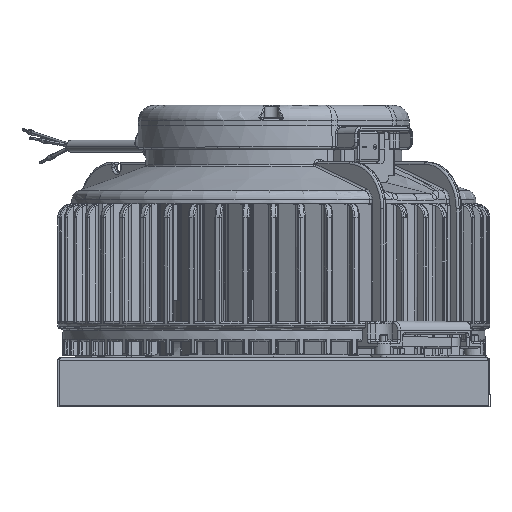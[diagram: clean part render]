
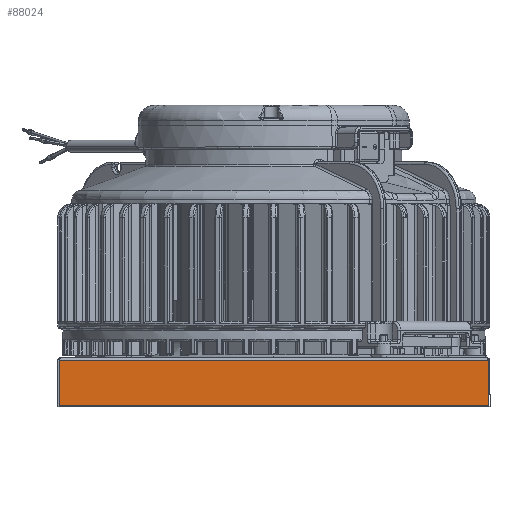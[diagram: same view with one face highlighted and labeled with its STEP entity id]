
A CAD part, top view. The second image highlights one B-rep face of the part: STEP entity #88024.
In plain terms, the highlighted planar face has unit normal (0, 0, 1).
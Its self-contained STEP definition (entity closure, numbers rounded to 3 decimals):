
#12908 = FACE_OUTER_BOUND ( 'NONE', #87321, .T. ) ;
#36790 = LINE ( 'NONE', #70879, #36804 ) ;
#36804 = VECTOR ( 'NONE', #71031, 1000. ) ;
#37156 = LINE ( 'NONE', #71300, #37165 ) ;
#37165 = VECTOR ( 'NONE', #71190, 1000. ) ;
#43417 = CARTESIAN_POINT ( 'NONE',  ( 159.4, -34.9, 160.5 ) ) ;
#43419 = CARTESIAN_POINT ( 'NONE',  ( 159.4, -1.3, 160.5 ) ) ;
#43478 = CARTESIAN_POINT ( 'NONE',  ( -159.4, -34.9, 160.5 ) ) ;
#43528 = CARTESIAN_POINT ( 'NONE',  ( -159.4, -1.3, 160.5 ) ) ;
#52132 = EDGE_CURVE ( 'NONE', #85585, #85583, #69606, .T. ) ;
#53868 = EDGE_CURVE ( 'NONE', #85659, #85627, #36790, .T. ) ;
#54087 = EDGE_CURVE ( 'NONE', #85659, #85585, #37156, .T. ) ;
#64568 = CARTESIAN_POINT ( 'NONE',  ( 160.5, -34.9, 160.5 ) ) ;
#64572 = DIRECTION ( 'NONE',  ( -1., 0., 0. ) ) ;
#69606 = LINE ( 'NONE', #93146, #69608 ) ;
#69608 = VECTOR ( 'NONE', #93338, 1000. ) ;
#70879 = CARTESIAN_POINT ( 'NONE',  ( -159.4, 0., 160.5 ) ) ;
#71031 = DIRECTION ( 'NONE',  ( 0., -1., 0. ) ) ;
#71190 = DIRECTION ( 'NONE',  ( 1., 0., 0. ) ) ;
#71300 = CARTESIAN_POINT ( 'NONE',  ( 160.5, -1.3, 160.5 ) ) ;
#72792 = ORIENTED_EDGE ( 'NONE', *, *, #54087, .F. ) ;
#73028 = ORIENTED_EDGE ( 'NONE', *, *, #101142, .F. ) ;
#73329 = ORIENTED_EDGE ( 'NONE', *, *, #52132, .F. ) ;
#73492 = ORIENTED_EDGE ( 'NONE', *, *, #53868, .T. ) ;
#75412 = CARTESIAN_POINT ( 'NONE',  ( 160.5, 0., 160.5 ) ) ;
#75418 = PLANE ( 'NONE',  #94098 ) ;
#75421 = DIRECTION ( 'NONE',  ( 0., 0., -1. ) ) ;
#75422 = DIRECTION ( 'NONE',  ( 0., -1., 0. ) ) ;
#85583 = VERTEX_POINT ( 'NONE', #43417 ) ;
#85585 = VERTEX_POINT ( 'NONE', #43419 ) ;
#85627 = VERTEX_POINT ( 'NONE', #43478 ) ;
#85659 = VERTEX_POINT ( 'NONE', #43528 ) ;
#87321 = EDGE_LOOP ( 'NONE', ( #72792, #73492, #73028, #73329 ) ) ;
#88024 = ADVANCED_FACE ( 'NONE', ( #12908 ), #75418, .F. ) ;
#93146 = CARTESIAN_POINT ( 'NONE',  ( 159.4, 0., 160.5 ) ) ;
#93338 = DIRECTION ( 'NONE',  ( 0., -1., 0. ) ) ;
#94098 = AXIS2_PLACEMENT_3D ( 'NONE', #75412, #75421, #75422 ) ;
#101142 = EDGE_CURVE ( 'NONE', #85583, #85627, #116346, .T. ) ;
#116344 = VECTOR ( 'NONE', #64572, 1000. ) ;
#116346 = LINE ( 'NONE', #64568, #116344 ) ;
